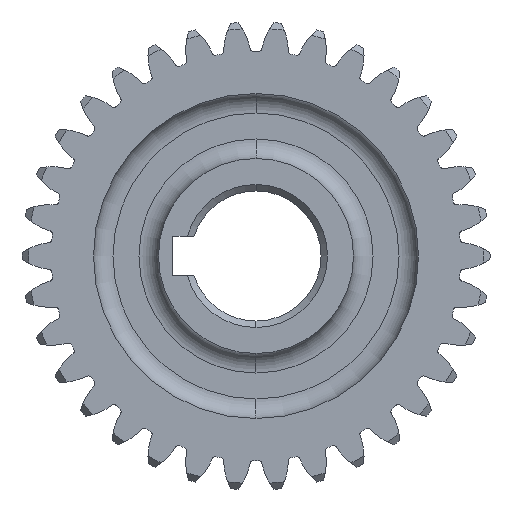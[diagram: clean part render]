
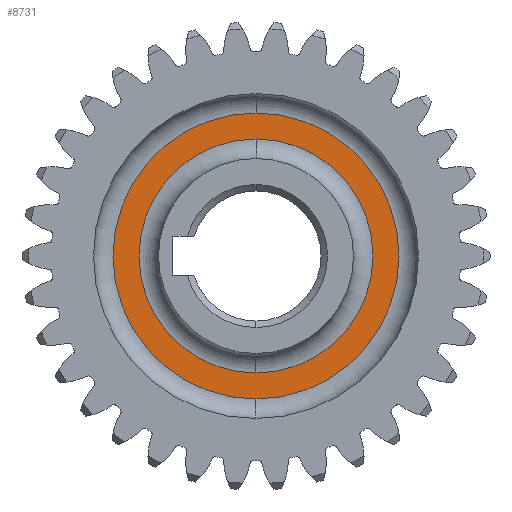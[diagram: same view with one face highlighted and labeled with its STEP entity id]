
A CAD part, left-side view. The second image highlights one B-rep face of the part: STEP entity #8731.
In plain terms, the highlighted planar face has unit normal (-1, 0, 0).
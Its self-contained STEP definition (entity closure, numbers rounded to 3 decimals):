
#138 = CIRCLE ( 'NONE', #13631, 18. ) ;
#716 = CIRCLE ( 'NONE', #8483, 22. ) ;
#1625 = PLANE ( 'NONE',  #8769 ) ;
#1770 = ORIENTED_EDGE ( 'NONE', *, *, #9820, .T. ) ;
#1872 = CARTESIAN_POINT ( 'NONE',  ( -2., 0., -18. ) ) ;
#2127 = EDGE_CURVE ( 'NONE', #8871, #8225, #138, .T. ) ;
#3227 = DIRECTION ( 'NONE',  ( -1., 0., 0. ) ) ;
#3615 = CARTESIAN_POINT ( 'NONE',  ( -2., 0., 0. ) ) ;
#3996 = AXIS2_PLACEMENT_3D ( 'NONE', #6140, #14924, #7390 ) ;
#4410 = ORIENTED_EDGE ( 'NONE', *, *, #4781, .T. ) ;
#4781 = EDGE_CURVE ( 'NONE', #14098, #6440, #6720, .T. ) ;
#4867 = DIRECTION ( 'NONE',  ( 0., 0., 1. ) ) ;
#4909 = FACE_OUTER_BOUND ( 'NONE', #5593, .T. ) ;
#5297 = FACE_BOUND ( 'NONE', #12832, .T. ) ;
#5397 = DIRECTION ( 'NONE',  ( 0., 0., -1. ) ) ;
#5590 = CARTESIAN_POINT ( 'NONE',  ( -2., 0., 22. ) ) ;
#5593 = EDGE_LOOP ( 'NONE', ( #16003, #4410 ) ) ;
#5774 = CARTESIAN_POINT ( 'NONE',  ( -2., 0., 18. ) ) ;
#6140 = CARTESIAN_POINT ( 'NONE',  ( -2., 0., 0. ) ) ;
#6440 = VERTEX_POINT ( 'NONE', #5590 ) ;
#6583 = DIRECTION ( 'NONE',  ( 1., 0., 0. ) ) ;
#6720 = CIRCLE ( 'NONE', #3996, 22. ) ;
#7342 = ORIENTED_EDGE ( 'NONE', *, *, #2127, .T. ) ;
#7390 = DIRECTION ( 'NONE',  ( 0., 0., 1. ) ) ;
#8225 = VERTEX_POINT ( 'NONE', #5774 ) ;
#8483 = AXIS2_PLACEMENT_3D ( 'NONE', #10773, #3227, #12031 ) ;
#8731 = ADVANCED_FACE ( 'NONE', ( #5297, #4909 ), #1625, .T. ) ;
#8769 = AXIS2_PLACEMENT_3D ( 'NONE', #14162, #12964, #5397 ) ;
#8871 = VERTEX_POINT ( 'NONE', #1872 ) ;
#9820 = EDGE_CURVE ( 'NONE', #8225, #8871, #14492, .T. ) ;
#10474 = EDGE_CURVE ( 'NONE', #6440, #14098, #716, .T. ) ;
#10773 = CARTESIAN_POINT ( 'NONE',  ( -2., 0., 0. ) ) ;
#11999 = CARTESIAN_POINT ( 'NONE',  ( -2., 0., -22. ) ) ;
#12031 = DIRECTION ( 'NONE',  ( 0., 0., 1. ) ) ;
#12415 = DIRECTION ( 'NONE',  ( 1., 0., 0. ) ) ;
#12824 = AXIS2_PLACEMENT_3D ( 'NONE', #14111, #6583, #15358 ) ;
#12832 = EDGE_LOOP ( 'NONE', ( #1770, #7342 ) ) ;
#12964 = DIRECTION ( 'NONE',  ( -1., 0., 0. ) ) ;
#13631 = AXIS2_PLACEMENT_3D ( 'NONE', #3615, #12415, #4867 ) ;
#14098 = VERTEX_POINT ( 'NONE', #11999 ) ;
#14111 = CARTESIAN_POINT ( 'NONE',  ( -2., 0., 0. ) ) ;
#14162 = CARTESIAN_POINT ( 'NONE',  ( -2., 0., 0. ) ) ;
#14492 = CIRCLE ( 'NONE', #12824, 18. ) ;
#14924 = DIRECTION ( 'NONE',  ( -1., 0., 0. ) ) ;
#15358 = DIRECTION ( 'NONE',  ( 0., 0., 1. ) ) ;
#16003 = ORIENTED_EDGE ( 'NONE', *, *, #10474, .T. ) ;
